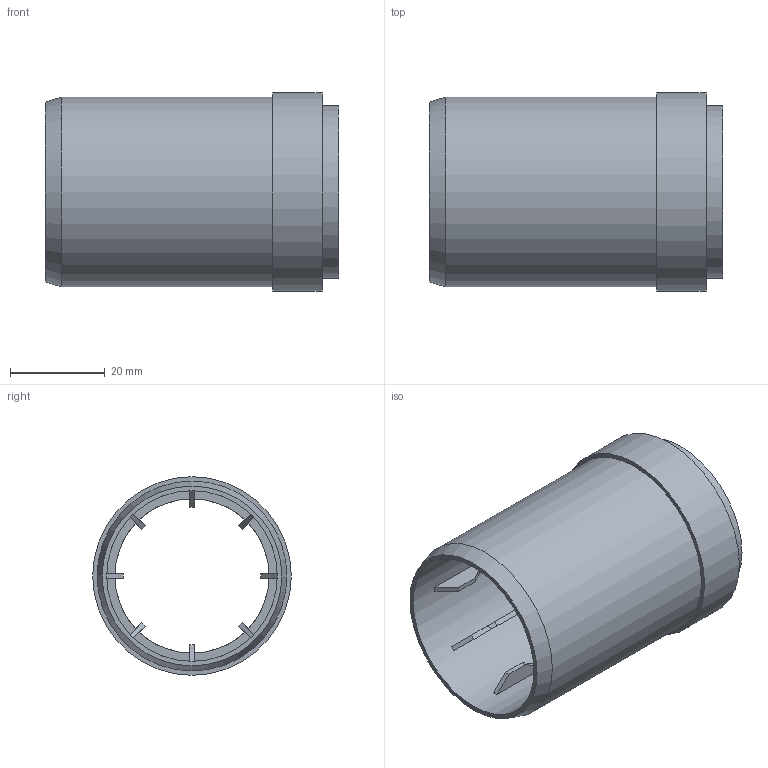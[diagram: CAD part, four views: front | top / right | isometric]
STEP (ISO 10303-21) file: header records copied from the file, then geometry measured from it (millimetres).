
FILE_DESCRIPTION(/* description */ (''),/* implementation_level */ '2;1');
FILE_NAME(/* name */ 'Z:\Geberit\Export\NewStep\390179.stp',/* time_stamp */ '2014-04-02T08:09:16+02:00',/* author */ ('ML'),/* organization */ (''),/* preprocessor_version */ 'ST-DEVELOPER v15.2',/* originating_system */ 'Autodesk Inventor 2014',/* authorisation */ '');
FILE_SCHEMA (('AUTOMOTIVE_DESIGN { 1 0 10303 214 3 1 1 }'));
Length unit declared in the file: millimetre
Products named in the file (1): 390179
Bounding box: 62 x 42 x 42 mm (x, y, z)
Volume: 16306.1 mm3; surface area: 17765.7 mm2
Topology: 1 solids, 1 shells, 70 faces, 182 edges, 118 vertices
Faces by surface type: plane 62, cylinder 7, cone 1
Full cylindrical faces by diameter (mm): 32.65 x1, 33 x1, 36.09 x1, 36.6 x1, 38.4 x1, 40.15 x1, 42 x1
Entity records: 2169 total; most frequent: CARTESIAN_POINT 361, DIRECTION 352, ORIENTED_EDGE 346, EDGE_CURVE 173, LINE 136, VECTOR 136, VERTEX_POINT 117, AXIS2_PLACEMENT_3D 108
